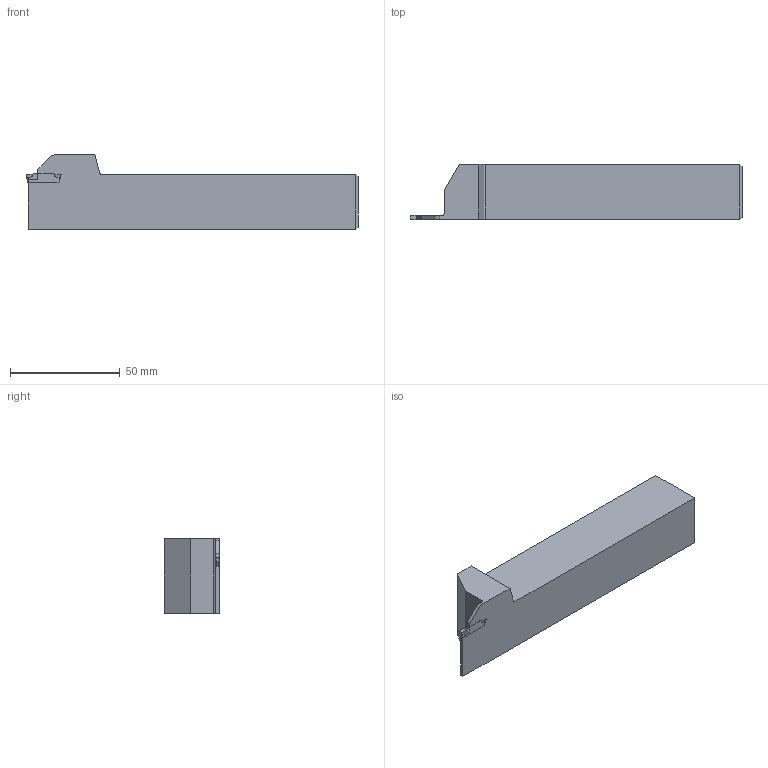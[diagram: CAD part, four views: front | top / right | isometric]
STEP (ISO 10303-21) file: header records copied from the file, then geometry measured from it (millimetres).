
FILE_DESCRIPTION(/* description */ (''),/* implementation_level */ '2;1');
FILE_NAME(/* name */ 'MGEHR2525-2-HAAS.stp',/* time_stamp */ '2021-10-15T14:34:47+09:00',/* author */ (''),/* organization */ (''),/* preprocessor_version */ 'ST-DEVELOPER v11',/* originating_system */ 'SIEMENS UGS NX 6.0',/* authorisation */ '');
FILE_SCHEMA (('CONFIG_CONTROL_DESIGN'));
Length unit declared in the file: millimetre
Products named in the file (1): user478Ezrfa
Bounding box: 151.25 x 25.25 x 34 mm (x, y, z)
Volume: 87946.3 mm3; surface area: 16253.1 mm2
Topology: 2 solids, 4 shells, 79 faces, 205 edges, 134 vertices
Faces by surface type: plane 54, cylinder 23, bspline 2
Entity records: 2537 total; most frequent: CARTESIAN_POINT 501, ORIENTED_EDGE 410, DIRECTION 397, EDGE_CURVE 205, LINE 149, VECTOR 149, VERTEX_POINT 134, AXIS2_PLACEMENT_3D 124
